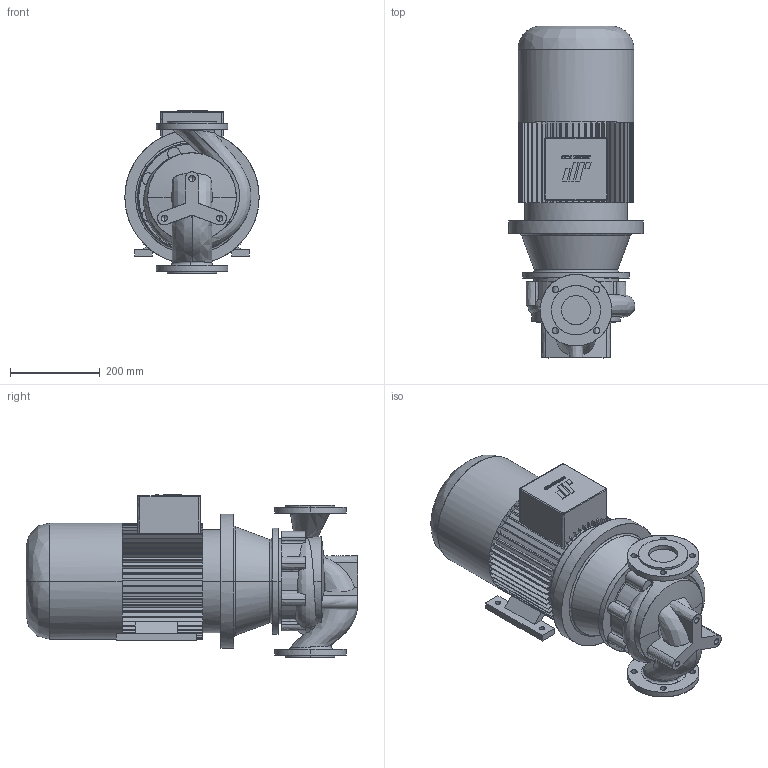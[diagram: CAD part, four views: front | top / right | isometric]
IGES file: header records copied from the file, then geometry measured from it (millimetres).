
Start section: CombiLine
Global section: file name: CLB_65-160_IEC132S.igs; native system:  By UGS Corp.; preprocessor: XPlus GENERIC/IGES 3.0; author: Stageplaats; organization: Johnson Pump Water B.V.; date: 20070713.133314; units: millimetre
Bounding box: 300 x 741.5 x 363 mm (x, y, z)
Surface area: 1157814.9 mm2 (no closed solid volume)
Topology: 0 solids, 0 shells, 581 faces, 3524 edges, 3518 vertices
Faces by surface type: bspline 581
